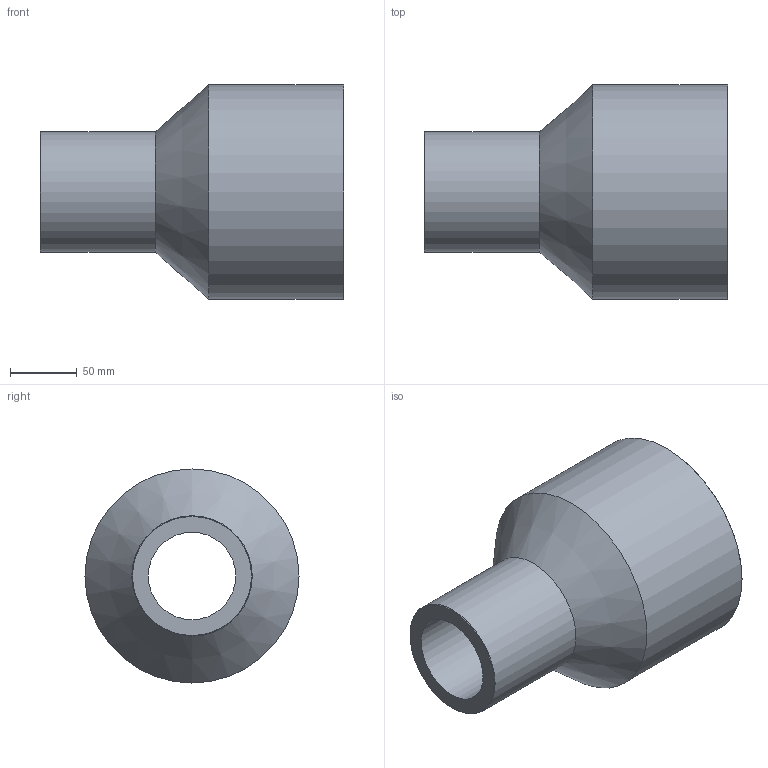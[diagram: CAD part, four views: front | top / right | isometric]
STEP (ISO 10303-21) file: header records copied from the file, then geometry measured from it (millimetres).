
FILE_DESCRIPTION(/* description */ ('Unknown'),/* implementation_level */ '2;1');
FILE_NAME(/* name */ 'RP160090H',/* time_stamp */ '2021-09-16T12:36:53+02:00',/* author */ ('Unknown'),/* organization */ ('Unknown'),/* preprocessor_version */ 'ST-DEVELOPER v16.7',/* originating_system */ 'Solid Edge',/* authorisation */ 'Unknown');
FILE_SCHEMA (('AUTOMOTIVE_DESIGN {1 0 10303 214 3 1 1}'));
Length unit declared in the file: millimetre
Products named in the file (1): RP160090H
Bounding box: 227 x 160 x 160 mm (x, y, z)
Volume: 1524857.6 mm3; surface area: 174726 mm2
Topology: 1 solids, 1 shells, 10 faces, 19 edges, 11 vertices
Faces by surface type: cylinder 4, cone 4, plane 2
Full cylindrical faces by diameter (mm): 65.4 x1, 90 x1, 116.2 x1, 160 x1
Entity records: 238 total; most frequent: DIRECTION 42, CARTESIAN_POINT 31, AXIS2_PLACEMENT_3D 21, ORIENTED_EDGE 20, EDGE_LOOP 20, FACE_BOUND 20, EDGE_CURVE 10, VERTEX_POINT 10
